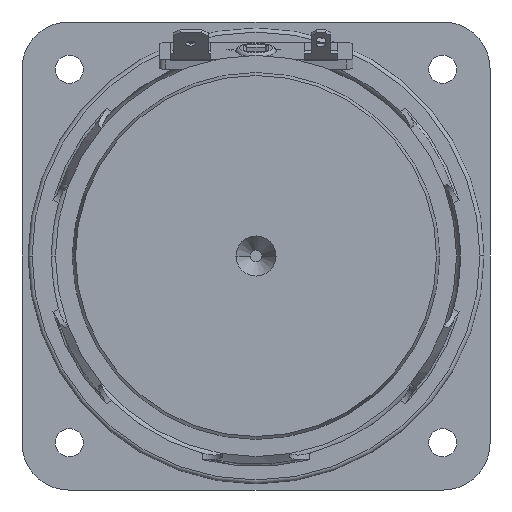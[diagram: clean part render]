
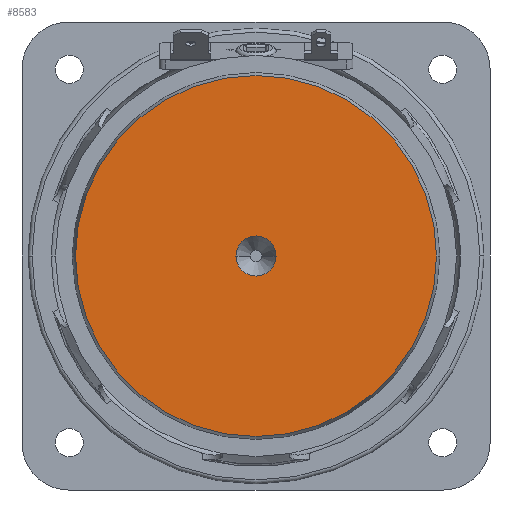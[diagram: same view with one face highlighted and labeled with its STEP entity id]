
A CAD part, front view. The second image highlights one B-rep face of the part: STEP entity #8583.
In plain terms, the highlighted planar face has unit normal (0, -1, 0).
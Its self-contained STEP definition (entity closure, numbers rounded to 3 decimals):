
#8269=CARTESIAN_POINT('',(0.,0.,0.));
#8270=DIRECTION('',(0.,-1.,0.));
#8271=DIRECTION('',(1.,0.,0.));
#8272=AXIS2_PLACEMENT_3D('',#8269,#8270,#8271);
#8277=CARTESIAN_POINT('',(0.,0.,0.));
#8278=DIRECTION('',(0.,1.,0.));
#8279=DIRECTION('',(1.,0.,0.));
#8280=AXIS2_PLACEMENT_3D('',#8277,#8278,#8279);
#8301=CARTESIAN_POINT('',(0.,0.,0.));
#8302=DIRECTION('',(0.,1.,0.));
#8303=DIRECTION('',(1.,0.,0.));
#8304=AXIS2_PLACEMENT_3D('',#8301,#8302,#8303);
#8309=CARTESIAN_POINT('',(0.,0.,0.));
#8310=DIRECTION('',(0.,-1.,0.));
#8311=DIRECTION('',(1.,0.,0.));
#8312=AXIS2_PLACEMENT_3D('',#8309,#8310,#8311);
#8472=CARTESIAN_POINT('',(3.,0.,0.));
#8474=VERTEX_POINT('',#8472);
#8475=CARTESIAN_POINT('',(27.,0.,0.));
#8477=VERTEX_POINT('',#8475);
#8486=CARTESIAN_POINT('',(-3.,0.,0.));
#8488=VERTEX_POINT('',#8486);
#8489=CARTESIAN_POINT('',(-27.,0.,0.));
#8491=VERTEX_POINT('',#8489);
#8568=CARTESIAN_POINT('',(0.,0.,0.));
#8569=DIRECTION('',(0.,-1.,0.));
#8570=DIRECTION('',(-1.,0.,0.));
#8571=AXIS2_PLACEMENT_3D('',#8568,#8569,#8570);
#8572=PLANE('',#8571);
#8574=ORIENTED_EDGE('',*,*,#8573,.T.);
#8576=ORIENTED_EDGE('',*,*,#8575,.F.);
#8577=EDGE_LOOP('',(#8574,#8576));
#8578=FACE_OUTER_BOUND('',#8577,.F.);
#8579=ORIENTED_EDGE('',*,*,#8556,.T.);
#8580=ORIENTED_EDGE('',*,*,#8533,.F.);
#8581=EDGE_LOOP('',(#8579,#8580));
#8582=FACE_BOUND('',#8581,.F.);
#8583=ADVANCED_FACE('',(#8578,#8582),#8572,.T.);
#8273=CIRCLE('',#8272,3.);
#8281=CIRCLE('',#8280,3.);
#8305=CIRCLE('',#8304,27.);
#8313=CIRCLE('',#8312,27.);
#8533=EDGE_CURVE('',#8474,#8488,#8281,.T.);
#8556=EDGE_CURVE('',#8474,#8488,#8273,.T.);
#8573=EDGE_CURVE('',#8477,#8491,#8305,.T.);
#8575=EDGE_CURVE('',#8477,#8491,#8313,.T.);
